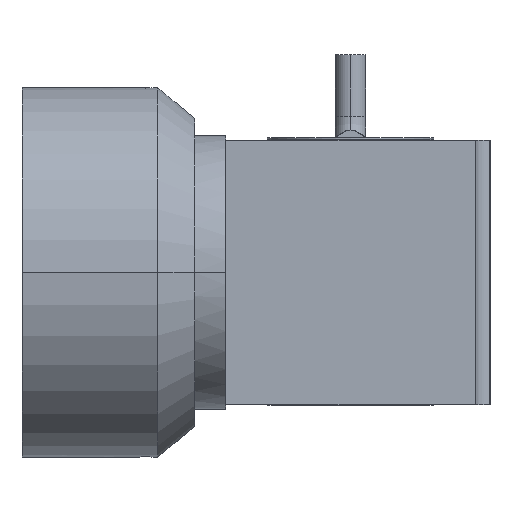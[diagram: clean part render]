
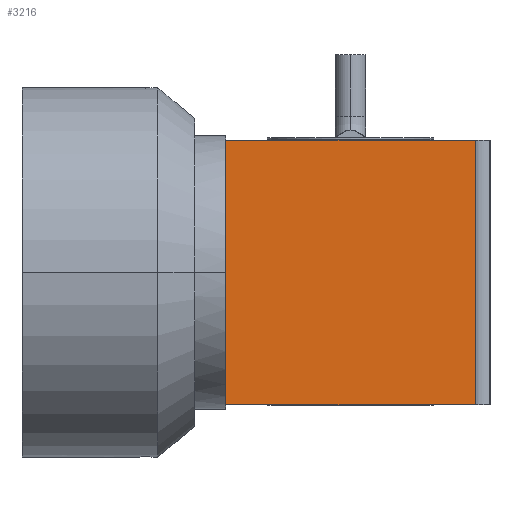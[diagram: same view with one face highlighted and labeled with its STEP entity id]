
A CAD part, left-side view. The second image highlights one B-rep face of the part: STEP entity #3216.
In plain terms, the highlighted planar face has unit normal (-1, 0, 0).
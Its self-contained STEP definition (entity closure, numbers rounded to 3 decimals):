
#736=DIRECTION('',(0.,1.,0.));
#737=VECTOR('',#736,40.488);
#738=CARTESIAN_POINT('',(0.,2.388,21.438));
#739=LINE('',#738,#737);
#841=DIRECTION('',(0.,0.,-1.));
#842=VECTOR('',#841,15.48);
#843=CARTESIAN_POINT('',(0.,42.875,-5.957));
#844=LINE('',#843,#842);
#849=DIRECTION('',(0.,0.,1.));
#850=VECTOR('',#849,11.915);
#851=CARTESIAN_POINT('',(0.,42.875,-5.957));
#852=LINE('',#851,#850);
#853=DIRECTION('',(0.,0.,-1.));
#854=VECTOR('',#853,42.875);
#855=CARTESIAN_POINT('',(0.,2.388,21.438));
#856=LINE('',#855,#854);
#857=DIRECTION('',(0.,1.,0.));
#858=VECTOR('',#857,40.488);
#859=CARTESIAN_POINT('',(0.,2.388,-21.438));
#860=LINE('',#859,#858);
#885=DIRECTION('',(0.,0.,-1.));
#886=VECTOR('',#885,15.48);
#887=CARTESIAN_POINT('',(0.,42.875,21.438));
#888=LINE('',#887,#886);
#1874=CARTESIAN_POINT('',(0.,2.388,-21.438));
#1876=VERTEX_POINT('',#1874);
#1883=CARTESIAN_POINT('',(0.,42.875,-21.438));
#1884=VERTEX_POINT('',#1883);
#1903=CARTESIAN_POINT('',(0.,2.388,21.438));
#1904=VERTEX_POINT('',#1903);
#1905=CARTESIAN_POINT('',(0.,42.875,21.438));
#1906=VERTEX_POINT('',#1905);
#2301=CARTESIAN_POINT('',(0.,42.875,-5.957));
#2302=VERTEX_POINT('',#2301);
#2305=CARTESIAN_POINT('',(0.,42.875,5.957));
#2306=VERTEX_POINT('',#2305);
#3199=CARTESIAN_POINT('',(0.,42.875,-21.438));
#3200=DIRECTION('',(-1.,0.,0.));
#3201=DIRECTION('',(0.,-1.,0.));
#3202=AXIS2_PLACEMENT_3D('',#3199,#3200,#3201);
#3203=PLANE('',#3202);
#3205=ORIENTED_EDGE('',*,*,#3204,.T.);
#3207=ORIENTED_EDGE('',*,*,#3206,.F.);
#3208=ORIENTED_EDGE('',*,*,#3102,.F.);
#3210=ORIENTED_EDGE('',*,*,#3209,.T.);
#3212=ORIENTED_EDGE('',*,*,#3211,.T.);
#3213=ORIENTED_EDGE('',*,*,#3192,.F.);
#3214=EDGE_LOOP('',(#3205,#3207,#3208,#3210,#3212,#3213));
#3215=FACE_OUTER_BOUND('',#3214,.F.);
#3216=ADVANCED_FACE('',(#3215),#3203,.T.);
#3102=EDGE_CURVE('',#1904,#1906,#739,.T.);
#3192=EDGE_CURVE('',#2302,#1884,#844,.T.);
#3204=EDGE_CURVE('',#2302,#2306,#852,.T.);
#3206=EDGE_CURVE('',#1906,#2306,#888,.T.);
#3209=EDGE_CURVE('',#1904,#1876,#856,.T.);
#3211=EDGE_CURVE('',#1876,#1884,#860,.T.);
